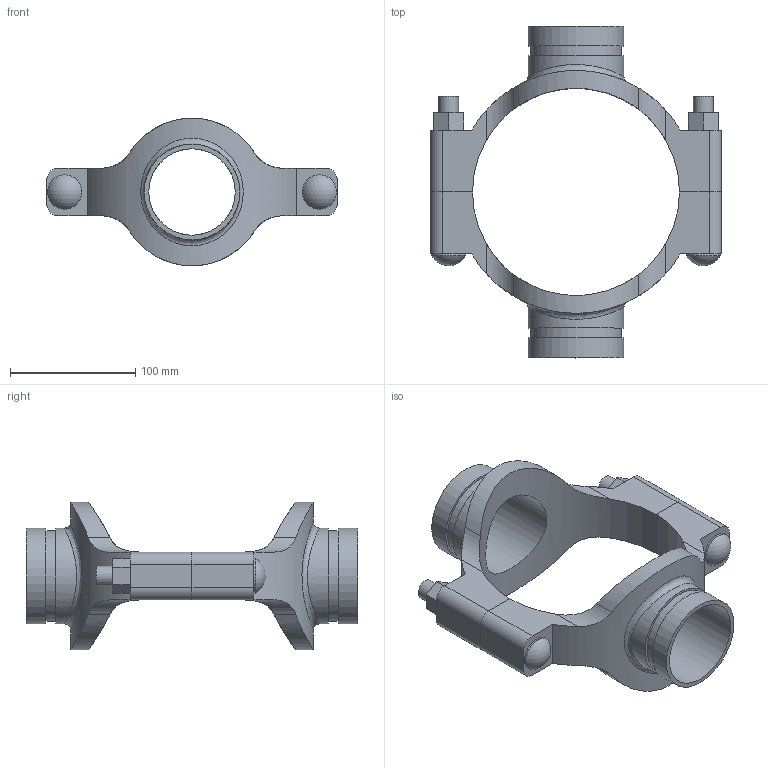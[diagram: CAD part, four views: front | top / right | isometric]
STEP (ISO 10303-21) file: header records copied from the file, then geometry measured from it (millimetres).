
FILE_DESCRIPTION(/* description */ ('VIC MECH-T BRANCH OUTLET CROSS STYLE 920N (GRVD)','CAx-IF Rec.Pracs.---Representation and Presentation of Product Manufacturing Information (PMI)---4.0---2014-10-13'),/* implementation_level */ '2;1');
FILE_NAME(/* name */ 'C:\Users\Vjadhav\AppData\Roaming\Autodesk\ApplicationPlugins\Back Up\Victaulic_IPS_Mechanical-Cross Outlet_Style 920N (OGS)\Victaulic_IPS_Mechanical-Cross Outlet_06.0 (165.1)x02.5 (76.1)x02.5 (76.1) (150x65x65).stp',/* time_stamp */ '2020-08-06T19:45:40+05:00',/* author */ ('Vjadhav'),/* organization */ ('Victaulic'),/* preprocessor_version */ 'ST-DEVELOPER v17.2',/* originating_system */ 'Autodesk Inventor 2019',/* authorisation */ '');
FILE_SCHEMA (('AP242_MANAGED_MODEL_BASED_3D_ENGINEERING_MIM_LF { 1 0 10303 442 1 1 4 }'));
Length unit declared in the file: inch
Products named in the file (3): 920NG-06.0 (165.1)x02.5 (76.1)x02.5 (76.1); 920G-06.0 (165.1)x02.5 (76.1); 920G-06.0 (165.1)x02.5 (76.1)_1
Assembly tree (2 placements, depth 2):
  920NG-06.0 (165.1)x02.5 (76.1)x02.5 (76.1)
    920G-06.0 (165.1)x02.5 (76.1)
    920G-06.0 (165.1)x02.5 (76.1)_1
Bounding box: 231.9 x 264.67 x 117.6 mm (x, y, z)
Volume: 624291.2 mm3; surface area: 160700.4 mm2
Topology: 2 solids, 2 shells, 104 faces, 262 edges, 178 vertices
Faces by surface type: plane 54, cylinder 46, sphere 2, bspline 2
Full cylindrical faces by diameter (mm): 15.875 x4, 27.381 x2, 68.986 x2, 72.263 x2, 76.2 x4
Entity records: 4270 total; most frequent: CARTESIAN_POINT 1497, DIRECTION 532, ORIENTED_EDGE 524, EDGE_CURVE 262, AXIS2_PLACEMENT_3D 193, VERTEX_POINT 178, LINE 146, VECTOR 146
